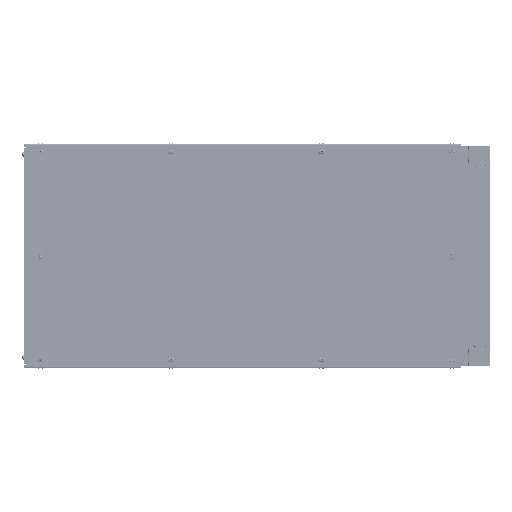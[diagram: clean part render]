
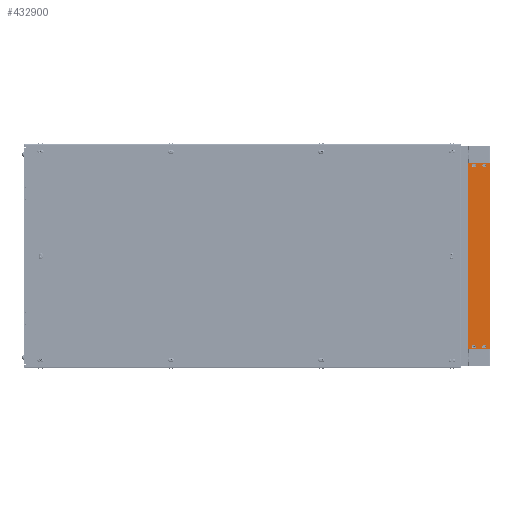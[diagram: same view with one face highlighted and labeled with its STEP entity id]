
A CAD part, left-side view. The second image highlights one B-rep face of the part: STEP entity #432900.
In plain terms, the highlighted planar face has unit normal (-1, 0, 0) as drawn and (0, -1, 0) by its records, which use the part's own axes.
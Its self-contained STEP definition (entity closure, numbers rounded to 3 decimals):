
#19755 = CARTESIAN_POINT ( 'NONE',  ( 830.015, 0., -33.496 ) ) ;
#41553 = CARTESIAN_POINT ( 'NONE',  ( 830.015, 0., -71.25 ) ) ;
#42462 = DIRECTION ( 'NONE',  ( 0., -1., 0. ) ) ;
#46331 = FACE_OUTER_BOUND ( 'NONE', #460370, .T. ) ;
#54028 = DIRECTION ( 'NONE',  ( 0., -1., 0. ) ) ;
#59692 = LINE ( 'NONE', #694323, #299083 ) ;
#65721 = CARTESIAN_POINT ( 'NONE',  ( 830.015, 0., -17.004 ) ) ;
#84430 = EDGE_LOOP ( 'NONE', ( #322361, #395374 ) ) ;
#94896 = CARTESIAN_POINT ( 'NONE',  ( 0., 0., 0. ) ) ;
#135123 = CIRCLE ( 'NONE', #757985, 8.246 ) ;
#135804 = VECTOR ( 'NONE', #789259, 1000. ) ;
#146868 = ORIENTED_EDGE ( 'NONE', *, *, #405129, .F. ) ;
#153149 = VECTOR ( 'NONE', #737995, 1000. ) ;
#166526 = ORIENTED_EDGE ( 'NONE', *, *, #575018, .F. ) ;
#171863 = EDGE_CURVE ( 'NONE', #310650, #541257, #699357, .T. ) ;
#179778 = DIRECTION ( 'NONE',  ( 0., 0., 1. ) ) ;
#187927 = DIRECTION ( 'NONE',  ( 0., -1., 0. ) ) ;
#188902 = CIRCLE ( 'NONE', #652484, 8.743 ) ;
#190005 = CARTESIAN_POINT ( 'NONE',  ( 841.04, 0., -96.5 ) ) ;
#212588 = EDGE_LOOP ( 'NONE', ( #146868, #439767 ) ) ;
#216340 = CARTESIAN_POINT ( 'NONE',  ( 830.015, 0., -79.993 ) ) ;
#217473 = DIRECTION ( 'NONE',  ( 0., 0., -1. ) ) ;
#271115 = VECTOR ( 'NONE', #600960, 1000. ) ;
#280438 = EDGE_CURVE ( 'NONE', #619962, #455724, #135123, .T. ) ;
#285992 = DIRECTION ( 'NONE',  ( 0., 0., 1. ) ) ;
#294541 = DIRECTION ( 'NONE',  ( 0., 0., 1. ) ) ;
#297797 = CIRCLE ( 'NONE', #642420, 8.246 ) ;
#299083 = VECTOR ( 'NONE', #495319, 1000. ) ;
#310650 = VERTEX_POINT ( 'NONE', #755004 ) ;
#315294 = CARTESIAN_POINT ( 'NONE',  ( 11.025, 0., -71.25 ) ) ;
#320945 = CARTESIAN_POINT ( 'NONE',  ( 11.025, 0., -17.004 ) ) ;
#322361 = ORIENTED_EDGE ( 'NONE', *, *, #371326, .F. ) ;
#322857 = ORIENTED_EDGE ( 'NONE', *, *, #540347, .F. ) ;
#337762 = DIRECTION ( 'NONE',  ( 0., -1., 0. ) ) ;
#338886 = CARTESIAN_POINT ( 'NONE',  ( 0., 0., -96.5 ) ) ;
#349947 = ORIENTED_EDGE ( 'NONE', *, *, #524556, .F. ) ;
#356457 = CARTESIAN_POINT ( 'NONE',  ( 11.025, 0., -79.993 ) ) ;
#356912 = DIRECTION ( 'NONE',  ( 0., 0., 1. ) ) ;
#360439 = CARTESIAN_POINT ( 'NONE',  ( 841.04, 0., 0. ) ) ;
#369112 = CIRCLE ( 'NONE', #527801, 8.743 ) ;
#371326 = EDGE_CURVE ( 'NONE', #455724, #619962, #297797, .T. ) ;
#381602 = DIRECTION ( 'NONE',  ( 0., -1., 0. ) ) ;
#388259 = CIRCLE ( 'NONE', #401287, 8.246 ) ;
#389778 = DIRECTION ( 'NONE',  ( 0., 0., -1. ) ) ;
#390030 = EDGE_CURVE ( 'NONE', #447916, #749838, #435014, .T. ) ;
#391534 = VERTEX_POINT ( 'NONE', #356457 ) ;
#395374 = ORIENTED_EDGE ( 'NONE', *, *, #280438, .F. ) ;
#401287 = AXIS2_PLACEMENT_3D ( 'NONE', #565320, #187927, #179778 ) ;
#405129 = EDGE_CURVE ( 'NONE', #391534, #445394, #188902, .T. ) ;
#407690 = LINE ( 'NONE', #469922, #135804 ) ;
#410160 = LINE ( 'NONE', #94896, #271115 ) ;
#415618 = DIRECTION ( 'NONE',  ( 0., 0., -1. ) ) ;
#432900 = ADVANCED_FACE ( 'NONE', ( #481928, #730845, #46331, #477802, #552325 ), #664589, .T. ) ;
#435014 = LINE ( 'NONE', #360439, #153149 ) ;
#439767 = ORIENTED_EDGE ( 'NONE', *, *, #443681, .F. ) ;
#442998 = AXIS2_PLACEMENT_3D ( 'NONE', #787980, #601289, #285992 ) ;
#443681 = EDGE_CURVE ( 'NONE', #445394, #391534, #369112, .T. ) ;
#445394 = VERTEX_POINT ( 'NONE', #699909 ) ;
#447916 = VERTEX_POINT ( 'NONE', #677329 ) ;
#455724 = VERTEX_POINT ( 'NONE', #461087 ) ;
#460370 = EDGE_LOOP ( 'NONE', ( #810826, #735183, #465605, #349947 ) ) ;
#461087 = CARTESIAN_POINT ( 'NONE',  ( 11.025, 0., -33.496 ) ) ;
#465605 = ORIENTED_EDGE ( 'NONE', *, *, #390030, .F. ) ;
#469922 = CARTESIAN_POINT ( 'NONE',  ( 0., 0., -96.5 ) ) ;
#475123 = AXIS2_PLACEMENT_3D ( 'NONE', #672307, #54028, #356912 ) ;
#477802 = FACE_BOUND ( 'NONE', #84430, .T. ) ;
#481897 = AXIS2_PLACEMENT_3D ( 'NONE', #544114, #486015, #415618 ) ;
#481928 = FACE_BOUND ( 'NONE', #706623, .T. ) ;
#486015 = DIRECTION ( 'NONE',  ( 0., -1., 0. ) ) ;
#495319 = DIRECTION ( 'NONE',  ( 1., 0., 0. ) ) ;
#524556 = EDGE_CURVE ( 'NONE', #625393, #447916, #59692, .T. ) ;
#527801 = AXIS2_PLACEMENT_3D ( 'NONE', #315294, #381602, #389778 ) ;
#537519 = DIRECTION ( 'NONE',  ( 0., 0., -1. ) ) ;
#540347 = EDGE_CURVE ( 'NONE', #598628, #670141, #633923, .T. ) ;
#541257 = VERTEX_POINT ( 'NONE', #216340 ) ;
#541579 = DIRECTION ( 'NONE',  ( 0., -1., 0. ) ) ;
#544114 = CARTESIAN_POINT ( 'NONE',  ( 0., 0., -96.5 ) ) ;
#552325 = FACE_BOUND ( 'NONE', #212588, .T. ) ;
#565320 = CARTESIAN_POINT ( 'NONE',  ( 830.015, 0., -25.25 ) ) ;
#575018 = EDGE_CURVE ( 'NONE', #670141, #598628, #388259, .T. ) ;
#598628 = VERTEX_POINT ( 'NONE', #65721 ) ;
#599807 = CARTESIAN_POINT ( 'NONE',  ( 11.025, 0., -25.25 ) ) ;
#600960 = DIRECTION ( 'NONE',  ( 0., 0., 1. ) ) ;
#601289 = DIRECTION ( 'NONE',  ( 0., -1., 0. ) ) ;
#604942 = EDGE_LOOP ( 'NONE', ( #322857, #166526 ) ) ;
#619962 = VERTEX_POINT ( 'NONE', #320945 ) ;
#625393 = VERTEX_POINT ( 'NONE', #664950 ) ;
#633027 = AXIS2_PLACEMENT_3D ( 'NONE', #41553, #730179, #294541 ) ;
#633923 = CIRCLE ( 'NONE', #475123, 8.246 ) ;
#642420 = AXIS2_PLACEMENT_3D ( 'NONE', #785736, #337762, #217473 ) ;
#652484 = AXIS2_PLACEMENT_3D ( 'NONE', #673018, #42462, #797405 ) ;
#664503 = EDGE_CURVE ( 'NONE', #749838, #698092, #407690, .T. ) ;
#664589 = PLANE ( 'NONE',  #481897 ) ;
#664950 = CARTESIAN_POINT ( 'NONE',  ( 0., 0., 0. ) ) ;
#668014 = CIRCLE ( 'NONE', #442998, 8.743 ) ;
#669800 = EDGE_CURVE ( 'NONE', #541257, #310650, #668014, .T. ) ;
#670141 = VERTEX_POINT ( 'NONE', #19755 ) ;
#672307 = CARTESIAN_POINT ( 'NONE',  ( 830.015, 0., -25.25 ) ) ;
#673018 = CARTESIAN_POINT ( 'NONE',  ( 11.025, 0., -71.25 ) ) ;
#677329 = CARTESIAN_POINT ( 'NONE',  ( 841.04, 0., 0. ) ) ;
#694323 = CARTESIAN_POINT ( 'NONE',  ( 0., 0., 0. ) ) ;
#698092 = VERTEX_POINT ( 'NONE', #338886 ) ;
#699357 = CIRCLE ( 'NONE', #633027, 8.743 ) ;
#699909 = CARTESIAN_POINT ( 'NONE',  ( 11.025, 0., -62.507 ) ) ;
#706623 = EDGE_LOOP ( 'NONE', ( #753562, #708876 ) ) ;
#708876 = ORIENTED_EDGE ( 'NONE', *, *, #669800, .F. ) ;
#730179 = DIRECTION ( 'NONE',  ( 0., -1., 0. ) ) ;
#730845 = FACE_BOUND ( 'NONE', #604942, .T. ) ;
#735183 = ORIENTED_EDGE ( 'NONE', *, *, #664503, .F. ) ;
#737995 = DIRECTION ( 'NONE',  ( 0., 0., -1. ) ) ;
#749838 = VERTEX_POINT ( 'NONE', #190005 ) ;
#753562 = ORIENTED_EDGE ( 'NONE', *, *, #171863, .F. ) ;
#755004 = CARTESIAN_POINT ( 'NONE',  ( 830.015, 0., -62.507 ) ) ;
#757985 = AXIS2_PLACEMENT_3D ( 'NONE', #599807, #541579, #537519 ) ;
#785736 = CARTESIAN_POINT ( 'NONE',  ( 11.025, 0., -25.25 ) ) ;
#787980 = CARTESIAN_POINT ( 'NONE',  ( 830.015, 0., -71.25 ) ) ;
#789259 = DIRECTION ( 'NONE',  ( -1., 0., 0. ) ) ;
#792681 = EDGE_CURVE ( 'NONE', #698092, #625393, #410160, .T. ) ;
#797405 = DIRECTION ( 'NONE',  ( 0., 0., -1. ) ) ;
#810826 = ORIENTED_EDGE ( 'NONE', *, *, #792681, .F. ) ;
